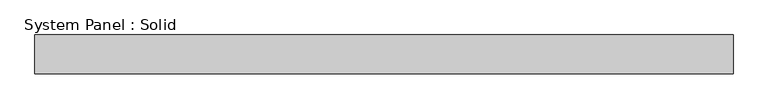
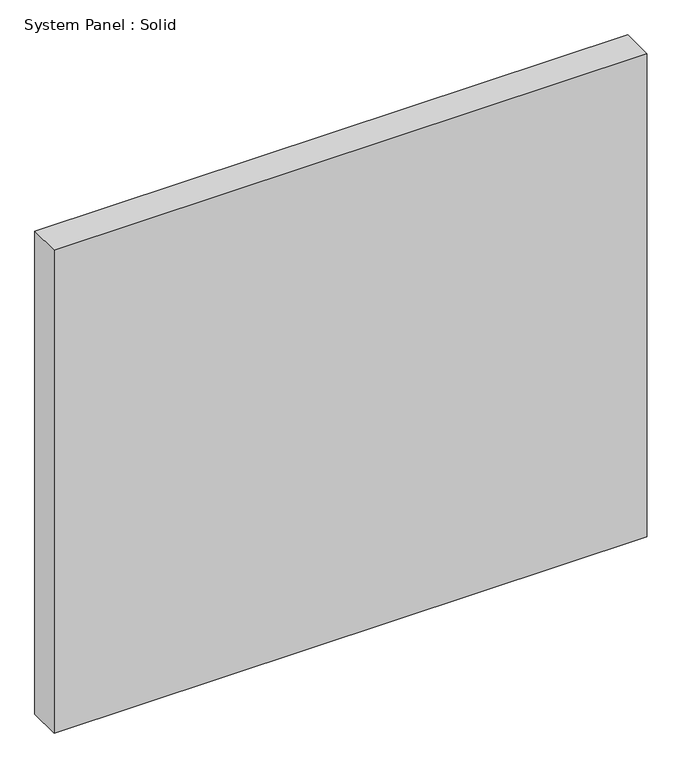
"""IFC4 building model written with IfcOpenShell, lengths in millimetres: plate geometry, System Panel : Solid."""

from ifc_helpers import new_model, si_unit, origin, origin_with_axes, place, context, project, spatial, polyline, outline, extrude, source, transform, mapped, element, save


def system_panel_solid_746005ab(model_context):
    return source(origin(), model_context, "Body", "SweptSolid", [
        extrude(outline(polyline([(537.4999999, -49.5), (-537.4999999, -49.5), (-537.4999999, 10.5), (537.4999999, 10.5), (537.4999999, -49.5)])), origin_with_axes(), (0.0, 0.0, 1.0), 925.0),
    ])


if __name__ == "__main__":
    model = new_model("IFC4")
    model_context = context("Model", 3, world=origin())
    ifc_project = project(units=[si_unit("LENGTHUNIT", "METRE", prefix="MILLI")], contexts=[model_context])
    site = spatial("IfcSite", under=ifc_project)
    building = spatial("IfcBuilding", under=site)
    placement = place(None, origin())
    system_panel_solid_shape = system_panel_solid_746005ab(model_context)
    element("IfcPlate", 1, ObjectType="System Panel : Solid", at=placement, inside=building, context=model_context, shape_type="MappedRepresentation", body=[
        mapped(system_panel_solid_shape, transform((0.0, 0.0, 0.0), x_axis=(1.0, 0.0, 0.0), y_axis=(0.0, 1.0, 0.0), z_axis=(0.0, 0.0, 1.0))),
    ])
    save(model, "model.ifc")
